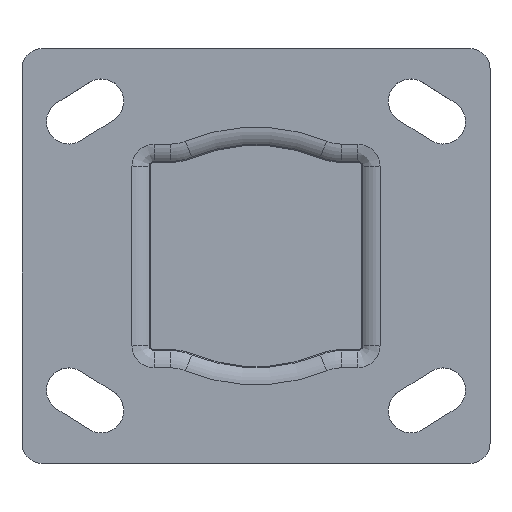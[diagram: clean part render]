
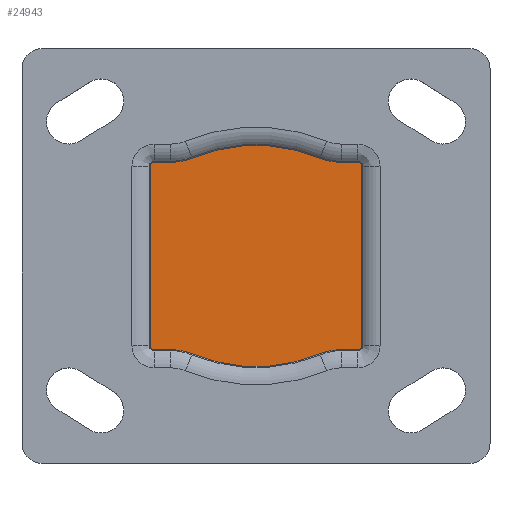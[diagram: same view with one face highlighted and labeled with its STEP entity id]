
A CAD part, top view. The second image highlights one B-rep face of the part: STEP entity #24943.
In plain terms, the highlighted planar face has unit normal (0, 0, 1).
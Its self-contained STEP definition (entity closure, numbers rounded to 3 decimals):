
#24294=CARTESIAN_POINT('',(25.,23.,0.5));
#24295=VERTEX_POINT('',#24294);
#24302=CARTESIAN_POINT('',(26.,22.,0.5));
#24303=VERTEX_POINT('',#24302);
#24304=CARTESIAN_POINT('',(25.,22.,0.5));
#24305=DIRECTION('',(0.0,0.0,1.0));
#24306=DIRECTION('',(1.0,0.0,0.0));
#24307=AXIS2_PLACEMENT_3D('',#24304,#24305,#24306);
#24308=CIRCLE('',#24307,1.0);
#24309=EDGE_CURVE('',#24303,#24295,#24308,.T.);
#24326=CARTESIAN_POINT('',(21.018,23.,0.5));
#24327=VERTEX_POINT('',#24326);
#24334=CARTESIAN_POINT('',(25.,23.,0.5));
#24335=DIRECTION('',(-1.0,0.,0.0));
#24336=VECTOR('',#24335,3.982);
#24337=LINE('',#24334,#24336);
#24338=EDGE_CURVE('',#24295,#24327,#24337,.T.);
#24350=CARTESIAN_POINT('',(15.668,24.063,0.5));
#24351=VERTEX_POINT('',#24350);
#24358=CARTESIAN_POINT('',(21.018,37.,0.5));
#24359=DIRECTION('',(0.0,0.0,-1.0));
#24360=DIRECTION('',(1.0,0.0,0.0));
#24361=AXIS2_PLACEMENT_3D('',#24358,#24359,#24360);
#24362=CIRCLE('',#24361,14.);
#24363=EDGE_CURVE('',#24327,#24351,#24362,.T.);
#24375=CARTESIAN_POINT('',(-15.668,24.063,0.5));
#24376=VERTEX_POINT('',#24375);
#24383=CARTESIAN_POINT('',(0.,-13.826,0.5));
#24384=DIRECTION('',(0.0,0.0,1.0));
#24385=DIRECTION('',(1.0,0.0,0.0));
#24386=AXIS2_PLACEMENT_3D('',#24383,#24384,#24385);
#24387=CIRCLE('',#24386,41.);
#24388=EDGE_CURVE('',#24351,#24376,#24387,.T.);
#24400=CARTESIAN_POINT('',(-21.018,23.,0.5));
#24401=VERTEX_POINT('',#24400);
#24408=CARTESIAN_POINT('',(-21.018,37.,0.5));
#24409=DIRECTION('',(0.0,0.0,-1.0));
#24410=DIRECTION('',(1.0,0.0,0.0));
#24411=AXIS2_PLACEMENT_3D('',#24408,#24409,#24410);
#24412=CIRCLE('',#24411,14.);
#24413=EDGE_CURVE('',#24376,#24401,#24412,.T.);
#24425=CARTESIAN_POINT('',(-25.,23.,0.5));
#24426=VERTEX_POINT('',#24425);
#24433=CARTESIAN_POINT('',(-21.018,23.,0.5));
#24434=DIRECTION('',(-1.0,0.,0.0));
#24435=VECTOR('',#24434,3.982);
#24436=LINE('',#24433,#24435);
#24437=EDGE_CURVE('',#24401,#24426,#24436,.T.);
#24449=CARTESIAN_POINT('',(-26.,22.,0.5));
#24450=VERTEX_POINT('',#24449);
#24457=CARTESIAN_POINT('',(-25.,22.,0.5));
#24458=DIRECTION('',(0.0,0.0,1.0));
#24459=DIRECTION('',(1.0,0.0,0.0));
#24460=AXIS2_PLACEMENT_3D('',#24457,#24458,#24459);
#24461=CIRCLE('',#24460,1.0);
#24462=EDGE_CURVE('',#24426,#24450,#24461,.T.);
#24474=CARTESIAN_POINT('',(-26.,-22.,0.5));
#24475=VERTEX_POINT('',#24474);
#24482=CARTESIAN_POINT('',(-26.,22.,0.5));
#24483=DIRECTION('',(0.0,-1.0,0.0));
#24484=VECTOR('',#24483,44.);
#24485=LINE('',#24482,#24484);
#24486=EDGE_CURVE('',#24450,#24475,#24485,.T.);
#24736=CARTESIAN_POINT('',(-25.,-23.,0.5));
#24737=VERTEX_POINT('',#24736);
#24744=CARTESIAN_POINT('',(-25.,-22.,0.5));
#24745=DIRECTION('',(0.0,0.0,1.0));
#24746=DIRECTION('',(1.0,0.0,0.0));
#24747=AXIS2_PLACEMENT_3D('',#24744,#24745,#24746);
#24748=CIRCLE('',#24747,1.0);
#24749=EDGE_CURVE('',#24475,#24737,#24748,.T.);
#24761=CARTESIAN_POINT('',(-21.018,-23.,0.5));
#24762=VERTEX_POINT('',#24761);
#24769=CARTESIAN_POINT('',(-25.,-23.,0.5));
#24770=DIRECTION('',(1.0,0.,0.0));
#24771=VECTOR('',#24770,3.982);
#24772=LINE('',#24769,#24771);
#24773=EDGE_CURVE('',#24737,#24762,#24772,.T.);
#24785=CARTESIAN_POINT('',(-15.668,-24.063,0.5));
#24786=VERTEX_POINT('',#24785);
#24793=CARTESIAN_POINT('',(-21.018,-37.,0.5));
#24794=DIRECTION('',(0.0,0.0,-1.0));
#24795=DIRECTION('',(1.0,0.0,0.0));
#24796=AXIS2_PLACEMENT_3D('',#24793,#24794,#24795);
#24797=CIRCLE('',#24796,14.);
#24798=EDGE_CURVE('',#24762,#24786,#24797,.T.);
#24810=CARTESIAN_POINT('',(15.668,-24.063,0.5));
#24811=VERTEX_POINT('',#24810);
#24818=CARTESIAN_POINT('',(0.,13.826,0.5));
#24819=DIRECTION('',(0.0,0.0,1.0));
#24820=DIRECTION('',(1.0,0.0,0.0));
#24821=AXIS2_PLACEMENT_3D('',#24818,#24819,#24820);
#24822=CIRCLE('',#24821,41.);
#24823=EDGE_CURVE('',#24786,#24811,#24822,.T.);
#24835=CARTESIAN_POINT('',(21.018,-23.,0.5));
#24836=VERTEX_POINT('',#24835);
#24843=CARTESIAN_POINT('',(21.018,-37.,0.5));
#24844=DIRECTION('',(0.0,0.0,-1.0));
#24845=DIRECTION('',(1.0,0.0,0.0));
#24846=AXIS2_PLACEMENT_3D('',#24843,#24844,#24845);
#24847=CIRCLE('',#24846,14.);
#24848=EDGE_CURVE('',#24811,#24836,#24847,.T.);
#24860=CARTESIAN_POINT('',(25.,-23.,0.5));
#24861=VERTEX_POINT('',#24860);
#24868=CARTESIAN_POINT('',(21.018,-23.,0.5));
#24869=DIRECTION('',(1.0,0.,0.0));
#24870=VECTOR('',#24869,3.982);
#24871=LINE('',#24868,#24870);
#24872=EDGE_CURVE('',#24836,#24861,#24871,.T.);
#24884=CARTESIAN_POINT('',(26.,-22.,0.5));
#24885=VERTEX_POINT('',#24884);
#24892=CARTESIAN_POINT('',(25.,-22.,0.5));
#24893=DIRECTION('',(0.0,0.0,1.0));
#24894=DIRECTION('',(1.0,0.0,0.0));
#24895=AXIS2_PLACEMENT_3D('',#24892,#24893,#24894);
#24896=CIRCLE('',#24895,1.0);
#24897=EDGE_CURVE('',#24861,#24885,#24896,.T.);
#24910=CARTESIAN_POINT('',(26.,-22.,0.5));
#24911=DIRECTION('',(0.0,1.0,0.0));
#24912=VECTOR('',#24911,44.);
#24913=LINE('',#24910,#24912);
#24914=EDGE_CURVE('',#24885,#24303,#24913,.T.);
#24920=CARTESIAN_POINT('',(0.,0.,0.5));
#24921=DIRECTION('',(0.0,0.0,1.0));
#24922=DIRECTION('',(1.0,0.0,0.0));
#24923=AXIS2_PLACEMENT_3D('',#24920,#24921,#24922);
#24924=PLANE('',#24923);
#24925=ORIENTED_EDGE('',*,*,#24897,.T.);
#24926=ORIENTED_EDGE('',*,*,#24914,.T.);
#24927=ORIENTED_EDGE('',*,*,#24309,.T.);
#24928=ORIENTED_EDGE('',*,*,#24338,.T.);
#24929=ORIENTED_EDGE('',*,*,#24363,.T.);
#24930=ORIENTED_EDGE('',*,*,#24388,.T.);
#24931=ORIENTED_EDGE('',*,*,#24413,.T.);
#24932=ORIENTED_EDGE('',*,*,#24437,.T.);
#24933=ORIENTED_EDGE('',*,*,#24462,.T.);
#24934=ORIENTED_EDGE('',*,*,#24486,.T.);
#24935=ORIENTED_EDGE('',*,*,#24749,.T.);
#24936=ORIENTED_EDGE('',*,*,#24773,.T.);
#24937=ORIENTED_EDGE('',*,*,#24798,.T.);
#24938=ORIENTED_EDGE('',*,*,#24823,.T.);
#24939=ORIENTED_EDGE('',*,*,#24848,.T.);
#24940=ORIENTED_EDGE('',*,*,#24872,.T.);
#24941=EDGE_LOOP('',(#24925,#24926,#24927,#24928,#24929,#24930,#24931,#24932,#24933,#24934,#24935,#24936,#24937,#24938,#24939,#24940));
#24942=FACE_OUTER_BOUND('',#24941,.T.);
#24943=ADVANCED_FACE('',(#24942),#24924,.T.);
